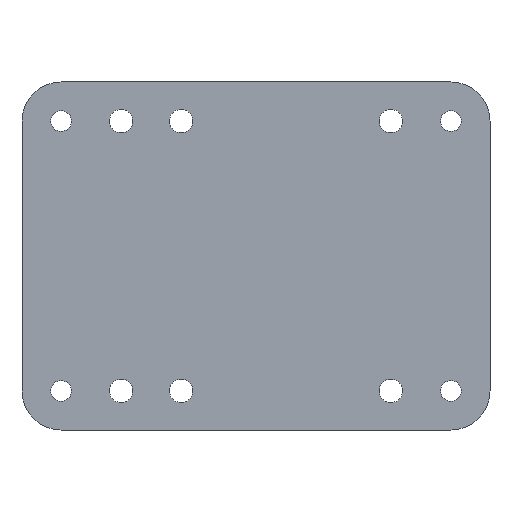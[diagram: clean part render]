
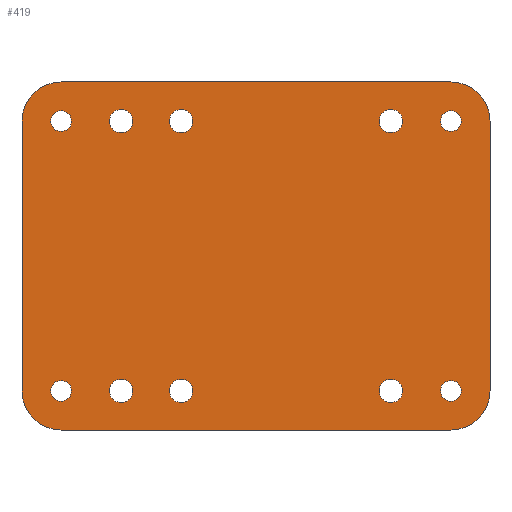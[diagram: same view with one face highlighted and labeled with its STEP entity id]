
A CAD part, front view. The second image highlights one B-rep face of the part: STEP entity #419.
In plain terms, the highlighted planar face has unit normal (0, -1, 0).
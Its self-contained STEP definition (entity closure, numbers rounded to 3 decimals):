
#16=PLANE('',#489);
#23=LINE('',#707,#39);
#26=LINE('',#713,#42);
#27=LINE('',#717,#43);
#28=LINE('',#721,#44);
#39=VECTOR('',#591,10.);
#42=VECTOR('',#596,10.);
#43=VECTOR('',#599,10.);
#44=VECTOR('',#602,10.);
#71=FACE_BOUND('',#146,.T.);
#72=FACE_BOUND('',#147,.T.);
#73=FACE_BOUND('',#148,.T.);
#74=FACE_BOUND('',#149,.T.);
#75=FACE_BOUND('',#150,.T.);
#76=FACE_BOUND('',#151,.T.);
#77=FACE_BOUND('',#152,.T.);
#78=FACE_BOUND('',#153,.T.);
#79=FACE_BOUND('',#154,.T.);
#80=FACE_BOUND('',#155,.T.);
#107=FACE_OUTER_BOUND('',#145,.T.);
#145=EDGE_LOOP('',(#329,#330,#331,#332,#333,#334,#335,#336));
#146=EDGE_LOOP('',(#337));
#147=EDGE_LOOP('',(#338));
#148=EDGE_LOOP('',(#339));
#149=EDGE_LOOP('',(#340));
#150=EDGE_LOOP('',(#341));
#151=EDGE_LOOP('',(#342));
#152=EDGE_LOOP('',(#343));
#153=EDGE_LOOP('',(#344));
#154=EDGE_LOOP('',(#345));
#155=EDGE_LOOP('',(#346));
#173=CIRCLE('',#448,9.);
#175=CIRCLE('',#451,9.);
#177=CIRCLE('',#454,9.);
#179=CIRCLE('',#457,9.);
#181=CIRCLE('',#460,9.);
#183=CIRCLE('',#463,9.);
#187=CIRCLE('',#469,8.);
#190=CIRCLE('',#474,8.);
#193=CIRCLE('',#479,8.);
#196=CIRCLE('',#484,8.);
#198=CIRCLE('',#487,30.);
#199=CIRCLE('',#490,30.);
#200=CIRCLE('',#491,30.);
#201=CIRCLE('',#492,30.);
#205=VERTEX_POINT('',#635);
#207=VERTEX_POINT('',#640);
#209=VERTEX_POINT('',#645);
#211=VERTEX_POINT('',#650);
#213=VERTEX_POINT('',#655);
#215=VERTEX_POINT('',#660);
#219=VERTEX_POINT('',#670);
#222=VERTEX_POINT('',#678);
#225=VERTEX_POINT('',#686);
#228=VERTEX_POINT('',#694);
#231=VERTEX_POINT('',#700);
#232=VERTEX_POINT('',#702);
#233=VERTEX_POINT('',#706);
#235=VERTEX_POINT('',#712);
#236=VERTEX_POINT('',#714);
#237=VERTEX_POINT('',#716);
#238=VERTEX_POINT('',#718);
#239=VERTEX_POINT('',#720);
#245=EDGE_CURVE('',#205,#205,#173,.T.);
#247=EDGE_CURVE('',#207,#207,#175,.T.);
#249=EDGE_CURVE('',#209,#209,#177,.T.);
#251=EDGE_CURVE('',#211,#211,#179,.T.);
#253=EDGE_CURVE('',#213,#213,#181,.T.);
#255=EDGE_CURVE('',#215,#215,#183,.T.);
#259=EDGE_CURVE('',#219,#219,#187,.T.);
#262=EDGE_CURVE('',#222,#222,#190,.T.);
#265=EDGE_CURVE('',#225,#225,#193,.T.);
#268=EDGE_CURVE('',#228,#228,#196,.T.);
#271=EDGE_CURVE('',#231,#232,#198,.T.);
#273=EDGE_CURVE('',#232,#233,#23,.T.);
#276=EDGE_CURVE('',#235,#231,#26,.T.);
#277=EDGE_CURVE('',#236,#235,#199,.T.);
#278=EDGE_CURVE('',#237,#236,#27,.T.);
#279=EDGE_CURVE('',#238,#237,#200,.T.);
#280=EDGE_CURVE('',#239,#238,#28,.T.);
#281=EDGE_CURVE('',#233,#239,#201,.T.);
#329=ORIENTED_EDGE('',*,*,#271,.F.);
#330=ORIENTED_EDGE('',*,*,#276,.F.);
#331=ORIENTED_EDGE('',*,*,#277,.F.);
#332=ORIENTED_EDGE('',*,*,#278,.F.);
#333=ORIENTED_EDGE('',*,*,#279,.F.);
#334=ORIENTED_EDGE('',*,*,#280,.F.);
#335=ORIENTED_EDGE('',*,*,#281,.F.);
#336=ORIENTED_EDGE('',*,*,#273,.F.);
#337=ORIENTED_EDGE('',*,*,#245,.T.);
#338=ORIENTED_EDGE('',*,*,#247,.T.);
#339=ORIENTED_EDGE('',*,*,#249,.T.);
#340=ORIENTED_EDGE('',*,*,#251,.T.);
#341=ORIENTED_EDGE('',*,*,#253,.T.);
#342=ORIENTED_EDGE('',*,*,#255,.T.);
#343=ORIENTED_EDGE('',*,*,#259,.T.);
#344=ORIENTED_EDGE('',*,*,#262,.T.);
#345=ORIENTED_EDGE('',*,*,#265,.T.);
#346=ORIENTED_EDGE('',*,*,#268,.T.);
#419=ADVANCED_FACE('',(#107,#71,#72,#73,#74,#75,#76,#77,#78,#79,#80),#16,
 .F.);
#448=AXIS2_PLACEMENT_3D('',#636,#507,#508);
#451=AXIS2_PLACEMENT_3D('',#641,#513,#514);
#454=AXIS2_PLACEMENT_3D('',#646,#519,#520);
#457=AXIS2_PLACEMENT_3D('',#651,#525,#526);
#460=AXIS2_PLACEMENT_3D('',#656,#531,#532);
#463=AXIS2_PLACEMENT_3D('',#661,#537,#538);
#469=AXIS2_PLACEMENT_3D('',#671,#549,#550);
#474=AXIS2_PLACEMENT_3D('',#679,#559,#560);
#479=AXIS2_PLACEMENT_3D('',#687,#569,#570);
#484=AXIS2_PLACEMENT_3D('',#695,#579,#580);
#487=AXIS2_PLACEMENT_3D('',#703,#586,#587);
#489=AXIS2_PLACEMENT_3D('',#711,#594,#595);
#490=AXIS2_PLACEMENT_3D('',#715,#597,#598);
#491=AXIS2_PLACEMENT_3D('',#719,#600,#601);
#492=AXIS2_PLACEMENT_3D('',#722,#603,#604);
#507=DIRECTION('center_axis',(0.,1.,0.));
#508=DIRECTION('ref_axis',(1.,0.,0.));
#513=DIRECTION('center_axis',(0.,1.,0.));
#514=DIRECTION('ref_axis',(1.,0.,0.));
#519=DIRECTION('center_axis',(0.,1.,0.));
#520=DIRECTION('ref_axis',(1.,0.,0.));
#525=DIRECTION('center_axis',(0.,1.,0.));
#526=DIRECTION('ref_axis',(1.,0.,0.));
#531=DIRECTION('center_axis',(0.,1.,0.));
#532=DIRECTION('ref_axis',(1.,0.,0.));
#537=DIRECTION('center_axis',(0.,1.,0.));
#538=DIRECTION('ref_axis',(1.,0.,0.));
#549=DIRECTION('center_axis',(0.,1.,0.));
#550=DIRECTION('ref_axis',(1.,0.,0.));
#559=DIRECTION('center_axis',(0.,1.,0.));
#560=DIRECTION('ref_axis',(1.,0.,0.));
#569=DIRECTION('center_axis',(0.,1.,0.));
#570=DIRECTION('ref_axis',(1.,0.,0.));
#579=DIRECTION('center_axis',(0.,1.,0.));
#580=DIRECTION('ref_axis',(1.,0.,0.));
#586=DIRECTION('center_axis',(0.,1.,0.));
#587=DIRECTION('ref_axis',(-0.707,0.,-0.707));
#591=DIRECTION('',(0.,0.,1.));
#594=DIRECTION('center_axis',(0.,1.,0.));
#595=DIRECTION('ref_axis',(0.,0.,1.));
#596=DIRECTION('',(-1.,0.,0.));
#597=DIRECTION('center_axis',(0.,1.,0.));
#598=DIRECTION('ref_axis',(0.707,0.,-0.707));
#599=DIRECTION('',(0.,0.,-1.));
#600=DIRECTION('center_axis',(0.,1.,0.));
#601=DIRECTION('ref_axis',(0.707,0.,0.707));
#602=DIRECTION('',(1.,0.,0.));
#603=DIRECTION('center_axis',(0.,1.,0.));
#604=DIRECTION('ref_axis',(-0.707,0.,0.707));
#635=CARTESIAN_POINT('',(113.,0.,-30.));
#636=CARTESIAN_POINT('Origin',(122.,0.,-30.));
#640=CARTESIAN_POINT('',(274.,0.,-237.));
#641=CARTESIAN_POINT('Origin',(283.,0.,-237.));
#645=CARTESIAN_POINT('',(67.,0.,-237.));
#646=CARTESIAN_POINT('Origin',(76.,0.,-237.));
#650=CARTESIAN_POINT('',(113.,0.,-237.));
#651=CARTESIAN_POINT('Origin',(122.,0.,-237.));
#655=CARTESIAN_POINT('',(274.,0.,-30.));
#656=CARTESIAN_POINT('Origin',(283.,0.,-30.));
#660=CARTESIAN_POINT('',(67.,0.,-30.));
#661=CARTESIAN_POINT('Origin',(76.,0.,-30.));
#670=CARTESIAN_POINT('',(321.,0.,-30.));
#671=CARTESIAN_POINT('Origin',(329.,0.,-30.));
#678=CARTESIAN_POINT('',(22.,0.,-237.));
#679=CARTESIAN_POINT('Origin',(30.,0.,-237.));
#686=CARTESIAN_POINT('',(321.,0.,-237.));
#687=CARTESIAN_POINT('Origin',(329.,0.,-237.));
#694=CARTESIAN_POINT('',(22.,0.,-30.));
#695=CARTESIAN_POINT('Origin',(30.,0.,-30.));
#700=CARTESIAN_POINT('',(30.,0.,-267.));
#702=CARTESIAN_POINT('',(0.,0.,-237.));
#703=CARTESIAN_POINT('Origin',(30.,0.,-237.));
#706=CARTESIAN_POINT('',(0.,0.,-30.));
#707=CARTESIAN_POINT('',(0.,0.,-267.));
#711=CARTESIAN_POINT('Origin',(179.5,0.,-133.5));
#712=CARTESIAN_POINT('',(329.,0.,-267.));
#713=CARTESIAN_POINT('',(359.,0.,-267.));
#714=CARTESIAN_POINT('',(359.,0.,-237.));
#715=CARTESIAN_POINT('Origin',(329.,0.,-237.));
#716=CARTESIAN_POINT('',(359.,0.,-30.));
#717=CARTESIAN_POINT('',(359.,0.,0.));
#718=CARTESIAN_POINT('',(329.,0.,0.));
#719=CARTESIAN_POINT('Origin',(329.,0.,-30.));
#720=CARTESIAN_POINT('',(30.,0.,0.));
#721=CARTESIAN_POINT('',(0.,0.,0.));
#722=CARTESIAN_POINT('Origin',(30.,0.,-30.));
